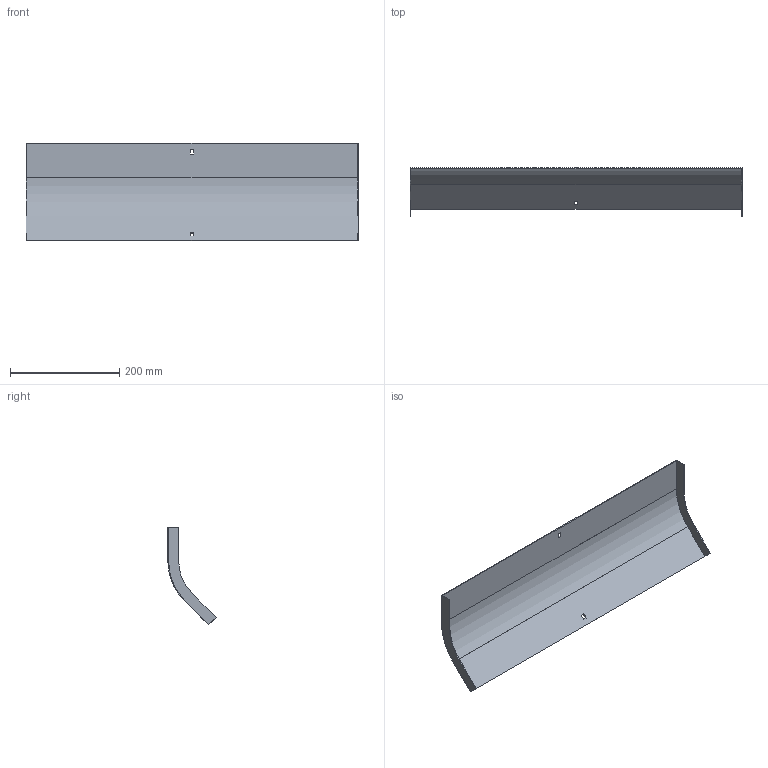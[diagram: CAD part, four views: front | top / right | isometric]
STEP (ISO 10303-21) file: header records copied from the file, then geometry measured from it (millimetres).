
FILE_DESCRIPTION (( 'STEP AP214' ), '1' );
FILE_NAME ('34G1C600.step', '2025-02-21T12:43:37', ( '' ), ( '' ), 'SwSTEP 2.0', 'SolidWorks 2023', '' );
FILE_SCHEMA (( 'AUTOMOTIVE_DESIGN' ));
Length unit declared in the file: millimetre
Products named in the file (1): 34G1C600
Bounding box: 607 x 88.23 x 178.86 mm (x, y, z)
Volume: 197021.4 mm3; surface area: 265290.4 mm2
Topology: 1 solids, 1 shells, 26 faces, 72 edges, 48 vertices
Faces by surface type: plane 22, cylinder 4
Entity records: 855 total; most frequent: CARTESIAN_POINT 147, ORIENTED_EDGE 144, DIRECTION 134, EDGE_CURVE 72, VECTOR 64, LINE 64, VERTEX_POINT 48, AXIS2_PLACEMENT_3D 35
